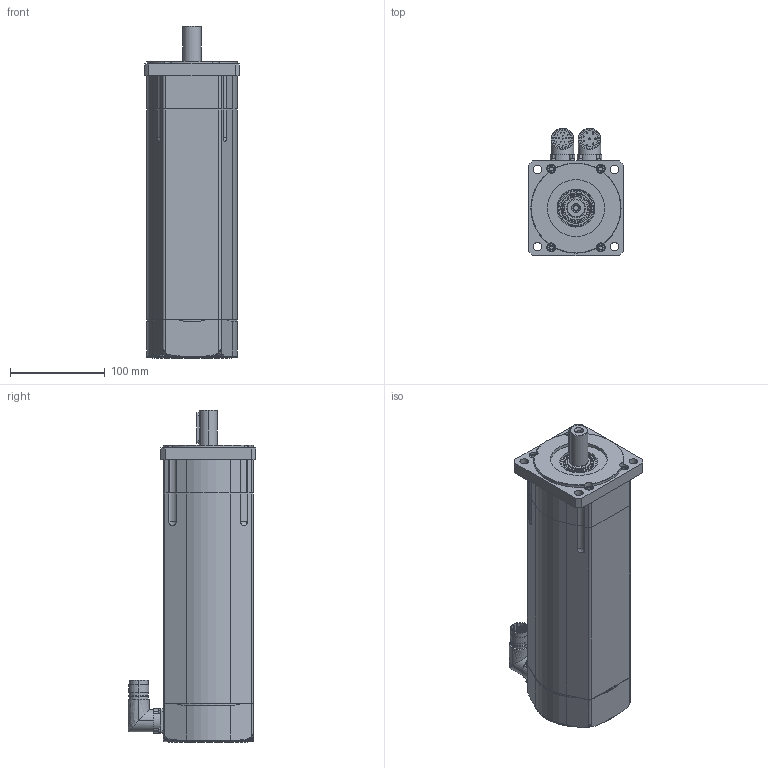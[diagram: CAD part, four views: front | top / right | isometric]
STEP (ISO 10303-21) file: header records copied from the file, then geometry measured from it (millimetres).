
FILE_DESCRIPTION (( 'STEP AP203' ), '1' );
FILE_NAME ('SSAX100XL_CF.STEP', '2015-09-10T14:12:39', ( 'Tecnico motori' ), ( '' ), 'SwSTEP 2.0', 'SolidWorks 2010', '' );
FILE_SCHEMA (( 'CONFIG_CONTROL_DESIGN' ));
Length unit declared in the file: millimetre
Products named in the file (1): SSAX100XL_CF
Bounding box: 100 x 134.5 x 350 mm (x, y, z)
Surface area: 148729.2 mm2 (no closed solid volume)
Topology: 0 solids, 36 shells, 492 faces, 1392 edges, 962 vertices
Faces by surface type: cylinder 215, plane 198, cone 43, torus 30, bspline 6
Entity records: 17589 total; most frequent: CARTESIAN_POINT 4478, DIRECTION 2909, ORIENTED_EDGE 2404, EDGE_CURVE 1392, AXIS2_PLACEMENT_3D 1145, VERTEX_POINT 962, CIRCLE 658, VECTOR 619
